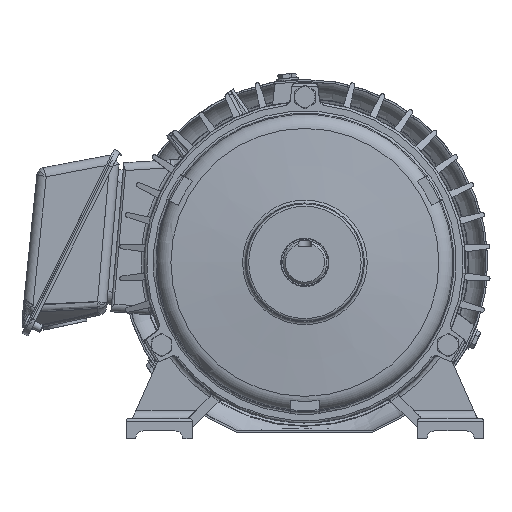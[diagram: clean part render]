
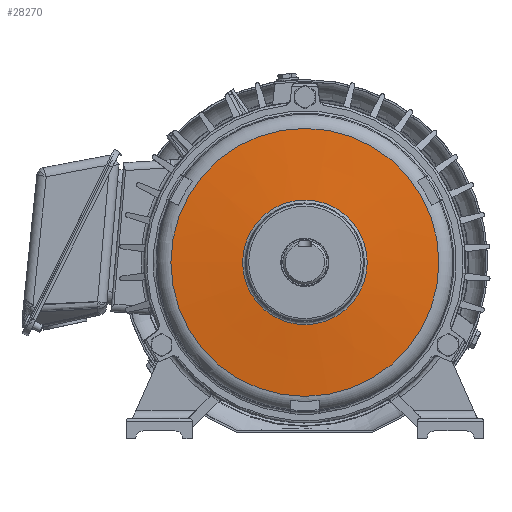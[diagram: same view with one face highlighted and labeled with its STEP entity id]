
A CAD part, front view. The second image highlights one B-rep face of the part: STEP entity #28270.
In plain terms, the highlighted conical face has half-angle 84.882 degrees and reference radius 92.5 mm.
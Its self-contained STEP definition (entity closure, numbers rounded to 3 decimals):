
#1514=CONICAL_SURFACE('',#30250,92.5,1.481);
#2491=CIRCLE('',#30251,85.099);
#2492=CIRCLE('',#30252,39.578);
#5577=ORIENTED_EDGE('',*,*,#12050,.T.);
#5578=ORIENTED_EDGE('',*,*,#12051,.T.);
#12050=EDGE_CURVE('',#15447,#15447,#2491,.T.);
#12051=EDGE_CURVE('',#15448,#15448,#2492,.T.);
#15447=VERTEX_POINT('',#49504);
#15448=VERTEX_POINT('',#49506);
#20308=EDGE_LOOP('',(#5577));
#20309=EDGE_LOOP('',(#5578));
#22203=FACE_BOUND('',#20308,.T.);
#22204=FACE_BOUND('',#20309,.T.);
#28270=ADVANCED_FACE('',(#22203,#22204),#1514,.T.);
#30250=AXIS2_PLACEMENT_3D('',#49502,#34299,#34300);
#30251=AXIS2_PLACEMENT_3D('',#49503,#34301,#34302);
#30252=AXIS2_PLACEMENT_3D('',#49505,#34303,#34304);
#34299=DIRECTION('',(0.,1.,0.));
#34300=DIRECTION('',(-1.,0.,0.));
#34301=DIRECTION('',(0.,-1.,0.));
#34302=DIRECTION('',(1.,0.,0.));
#34303=DIRECTION('',(0.,1.,0.));
#34304=DIRECTION('',(-1.,0.,0.));
#49502=CARTESIAN_POINT('',(0.,11.881,0.));
#49503=CARTESIAN_POINT('',(0.,11.218,0.));
#49504=CARTESIAN_POINT('',(85.099,11.218,0.));
#49505=CARTESIAN_POINT('',(0.,7.141,0.));
#49506=CARTESIAN_POINT('',(-39.578,7.141,0.));
